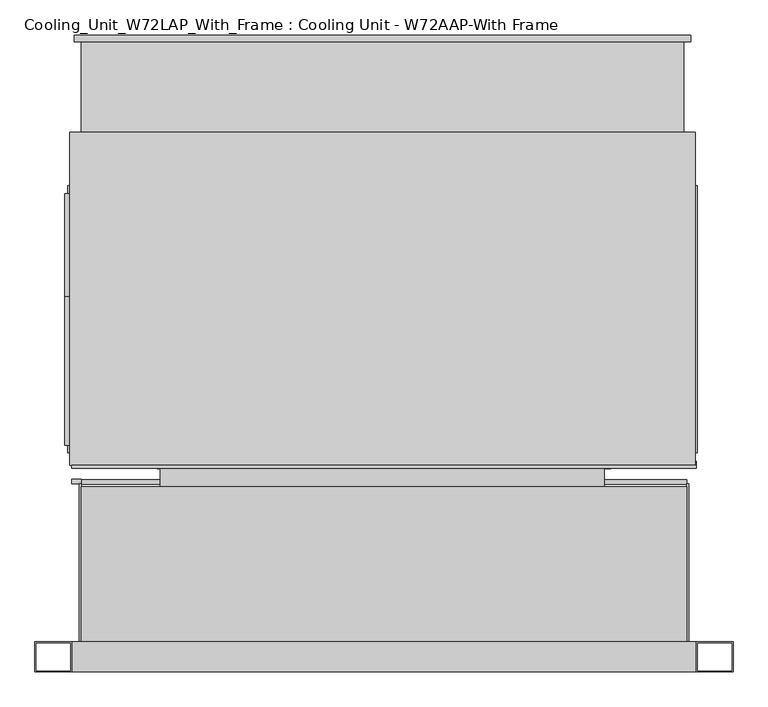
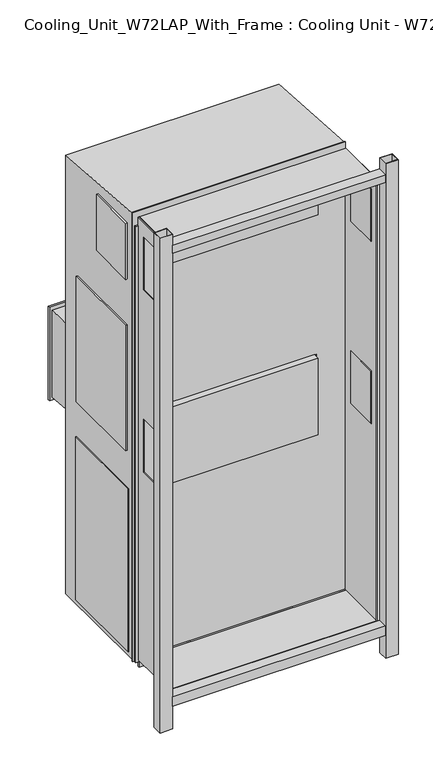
"""IFC4 building model written with IfcOpenShell, lengths in millimetres: proxy geometry, Cooling_Unit_W72LAP_With_Frame : Cooling Unit - W72AAP-With Frame."""

from ifc_helpers import new_model, si_unit, frame, origin, place, context, project, spatial, polyline, outline, extrude, faceted_brep, source, transform, mapped, element, save


def cooling_unit_w72lap_with_frame_cooling_unit_w72aap_with_416218e2(model_context):
    return source(origin(), model_context, "Body", "SolidModel", [
        extrude(outline(polyline([(-439.3229871, 963.8044365), (500.6040129, 963.8044365), (500.6040129, 960.6294365), (-439.3229871, 960.6294365), (-439.3229871, 963.8044365)])), frame((0.0, 0.0, 390.5703683), z_axis=(0.0, 0.0, 1.0), x_axis=(1.0, 0.0, 0.0)), (0.0, 0.0, 1.0), 889.0),
        faceted_brep([(-536.8589871, 963.8044365, 2693.6239728), (-536.8589871, 963.8044365, 371.2663683), (-536.8589871, 394.0316365, 371.2663683), (-536.8589871, 394.0316365, 2733.4663683), (531.8460129, 963.8044365, 2693.6239728), (531.8460129, 394.0316365, 2733.4663683), (531.8460129, 394.0316365, 371.2663683), (531.8460129, 963.8044365, 371.2663683), (500.6040129, 963.8044365, 1279.5703683), (-439.3229871, 963.8044365, 1279.5703683), (-439.3229871, 963.8044365, 390.5703683), (500.6040129, 963.8044365, 390.5703683), (-439.3229871, 960.6294365, 1279.5703683), (500.6040129, 960.6294365, 1279.5703683), (500.6040129, 960.6294365, 390.5703683), (-439.3229871, 960.6294365, 390.5703683)], [[[0, 1, 2, 3]], [[4, 5, 6, 7]], [[1, 0, 4, 7], [8, 9, 10, 11]], [[2, 1, 7, 6]], [[3, 2, 6, 5]], [[0, 3, 5, 4]], [[12, 13, 14, 15]], [[13, 12, 9, 8]], [[14, 13, 8, 11]], [[15, 14, 11, 10]], [[12, 15, 10, 9]]]),
        extrude(outline(polyline([(-540.1609871, 872.3136365), (-536.8589871, 872.3136365), (-536.8589871, 415.8756365), (-540.1609871, 415.8756365), (-540.1609871, 872.3136365)])), frame((0.0, 0.0, 395.3963683), z_axis=(0.0, 0.0, 1.0), x_axis=(1.0, 0.0, 0.0)), (0.0, 0.0, 1.0), 863.6),
        extrude(outline(polyline([(531.8460129, 872.3136365), (535.1480129, 872.3136365), (535.1480129, 415.8756365), (531.8460129, 415.8756365), (531.8460129, 872.3136365)])), frame((0.0, 0.0, 395.3963683), z_axis=(0.0, 0.0, 1.0), x_axis=(1.0, 0.0, 0.0)), (0.0, 0.0, 1.0), 863.6),
        extrude(outline(polyline([(-546.0029871, 428.3216365), (-546.0029871, 682.3216365), (-536.8589871, 682.3216365), (-536.8589871, 428.3216365), (-546.0029871, 428.3216365)])), frame((0.0, 0.0, 2362.1183683), z_axis=(0.0, 0.0, 1.0), x_axis=(1.0, 0.0, 0.0)), (0.0, 0.0, 1.0), 296.926),
        extrude(outline(polyline([(-546.0029871, 431.3696365), (-546.0029871, 858.3436365), (-536.8589871, 858.3436365), (-536.8589871, 431.3696365), (-546.0029871, 431.3696365)])), frame((0.0, 0.0, 1453.0523683), z_axis=(0.0, 0.0, 1.0), x_axis=(1.0, 0.0, 0.0)), (0.0, 0.0, 1.0), 665.226),
        extrude(outline(polyline([(-529.4294871, 1118.7444365), (-529.4294871, 1129.9204365), (524.4165129, 1129.9204365), (524.4165129, 1118.7444365), (-529.4294871, 1118.7444365)])), frame((0.0, 0.0, 1294.5563683), z_axis=(0.0, 0.0, 1.0), x_axis=(1.0, 0.0, 0.0)), (0.0, 0.0, 1.0), 495.3),
        extrude(outline(polyline([(1118.7444365, 1311.0663683), (963.8044365, 1324.6218618), (963.8044365, 1776.4709923), (1118.7444365, 1771.0603683), (1118.7444365, 1311.0663683)])), frame((-517.2374871, 0.0, 0.0), z_axis=(1.0, 0.0, 0.0), x_axis=(0.0, 1.0, 0.0)), (0.0, 0.0, 1.0), 1029.462),
        extrude(outline(polyline([(-381.9824871, 394.0316365), (376.9695129, 394.0316365), (376.9695129, 355.9316365), (-381.9824871, 355.9316365), (-381.9824871, 394.0316365)])), frame((0.0, 0.0, 2427.1423683), z_axis=(0.0, 0.0, 1.0), x_axis=(1.0, 0.0, 0.0)), (0.0, 0.0, 1.0), 250.952),
        extrude(outline(polyline([(-381.9824871, 394.0316365), (376.9695129, 394.0316365), (376.9695129, 355.9316365), (-381.9824871, 355.9316365), (-381.9824871, 394.0316365)])), frame((0.0, 0.0, 1261.7903683), z_axis=(0.0, 0.0, 1.0), x_axis=(1.0, 0.0, 0.0)), (0.0, 0.0, 1.0), 403.352),
        extrude(outline(polyline([(517.8204968, 357.412484), (517.8204968, 92.2999998), (-517.6294608, 92.2999998), (-517.6294608, 357.412484), (517.8204968, 357.412484)])), frame((0.0, 0.0, 383.5148535), z_axis=(0.0, 0.0, 1.0), x_axis=(1.0, 0.0, 0.0)), (0.0, 0.0, 1.0), 2.9767984),
        extrude(outline(polyline([(517.8204968, 357.412484), (517.8204968, 92.2999998), (-517.6294608, 92.2999998), (-517.6294608, 357.412484), (517.8204968, 357.412484)])), frame((0.0, 0.0, 2724.1136596), z_axis=(0.0, 0.0, 1.0), x_axis=(1.0, 0.0, 0.0)), (0.0, 0.0, 1.0), 3.019399),
        extrude(outline(polyline([(517.8204968, 370.1124587), (517.8204968, 362.5316365), (-517.6294608, 362.5316365), (-517.6294608, 370.1124587), (517.8204968, 370.1124587)])), frame((0.0, 0.0, 339.0538451), z_axis=(0.0, 0.0, 1.0), x_axis=(1.0, 0.0, 0.0)), (0.0, 0.0, 1.0), 44.449998),
        extrude(outline(polyline([(-533.9134227, 362.4924623), (-533.9134227, 370.1124587), (-517.6294608, 370.1124587), (-517.6294608, 362.4924623), (-533.9134227, 362.4924623)])), frame((0.0, 0.0, 367.7435917), z_axis=(0.0, 0.0, 1.0), x_axis=(1.0, 0.0, 0.0)), (0.0, 0.0, 1.0), 2309.6381202),
        extrude(outline(polyline([(362.5316365, 2724.1136596), (362.5316365, 380.3288503), (92.2999998, 380.3288503), (92.2999998, 2724.1136596), (362.5316365, 2724.1136596)]), holes=[polyline([(316.885252, 1680.8997953), (139.0852599, 1680.8997953), (139.0852599, 1401.4998324), (316.885252, 1401.4998324), (316.885252, 1680.8997953)]), polyline([(316.885252, 2646.0999494), (139.0852599, 2646.0999494), (139.0852599, 2366.6998135), (316.885252, 2366.6998135), (316.885252, 2646.0999494)])]), frame((-520.8044606, 0.0, 0.0), z_axis=(1.0, 0.0, 0.0), x_axis=(0.0, 1.0, 0.0)), (0.0, 0.0, 1.0), 3.1749998),
        extrude(outline(polyline([(596.7954946, 92.2999998), (596.7954946, 41.5), (534.1044587, 41.5), (534.1044587, 92.2999998), (596.7954946, 92.2999998)]), holes=[polyline([(536.2954946, 90.2999998), (536.2954946, 43.5), (594.7954946, 43.5), (594.7954946, 90.2999998), (536.2954946, 90.2999998)])]), frame((0.0, 0.0, 212.0538554), z_axis=(0.0, 0.0, 1.0), x_axis=(1.0, 0.0, 0.0)), (0.0, 0.0, 1.0), 2620.4655388),
        extrude(outline(polyline([(362.5316365, 2724.1136596), (362.5316365, 380.3288503), (92.2999998, 380.3288503), (92.2999998, 2724.1136596), (362.5316365, 2724.1136596)]), holes=[polyline([(316.885252, 1680.8997953), (139.0852599, 1680.8997953), (139.0852599, 1401.4998324), (316.885252, 1401.4998324), (316.885252, 1680.8997953)]), polyline([(316.885252, 2646.0999494), (139.0852599, 2646.0999494), (139.0852599, 2366.6998135), (316.885252, 2366.6998135), (316.885252, 2646.0999494)])]), frame((517.8204968, 0.0, 0.0), z_axis=(1.0, 0.0, 0.0), x_axis=(0.0, 1.0, 0.0)), (0.0, 0.0, 1.0), 3.1749998),
        extrude(outline(polyline([(517.8204968, 140.0852599), (517.8204968, 315.885252), (520.9954965, 315.885252), (520.9954965, 140.0852599), (517.8204968, 140.0852599)])), frame((0.0, 0.0, 2367.6998135), z_axis=(0.0, 0.0, 1.0), x_axis=(1.0, 0.0, 0.0)), (0.0, 0.0, 1.0), 277.400136),
        extrude(outline(polyline([(517.8204968, 140.0852599), (517.8204968, 315.885252), (520.9954965, 315.885252), (520.9954965, 140.0852599), (517.8204968, 140.0852599)])), frame((0.0, 0.0, 1402.4998324), z_axis=(0.0, 0.0, 1.0), x_axis=(1.0, 0.0, 0.0)), (0.0, 0.0, 1.0), 277.3999629),
        extrude(outline(polyline([(534.1044587, 401.6124587), (534.1044587, 393.9924623), (517.8204968, 393.9924623), (517.8204968, 401.6124587), (534.1044587, 401.6124587)])), frame((0.0, 0.0, 367.7435917), z_axis=(0.0, 0.0, 1.0), x_axis=(1.0, 0.0, 0.0)), (0.0, 0.0, 1.0), 2309.6381202),
        extrude(outline(polyline([(2736.5636991, -533.9134227), (358.1038505, -533.9134227), (358.1038505, 534.1044587), (2736.5636991, 534.1044587), (2736.5636991, -533.9134227)]), holes=[polyline([(2677.3817119, -387.404482), (2677.3817119, 387.595518), (2436.5897344, 387.595518), (2436.5897344, -387.404482), (2677.3817119, -387.404482)]), polyline([(1664.6613746, -387.404482), (1664.6613746, 387.595518), (1271.4693904, 387.595518), (1271.4693904, -387.404482), (1664.6613746, -387.404482)])]), frame((0.0, 388.912484, 0.0), z_axis=(0.0, 1.0, 0.0), x_axis=(0.0, 0.0, 1.0)), (0.0, 0.0, 1.0), 5.0799784),
        extrude(outline(polyline([(92.2999998, 2774.4485308), (92.2999998, 2732.8417103), (41.5, 2732.8417103), (41.5, 2774.4485308), (92.2999998, 2774.4485308)]), holes=[polyline([(43.5, 2772.4485308), (43.5, 2734.8417103), (90.2999998, 2734.8417103), (90.2999998, 2772.4485308), (43.5, 2772.4485308)])]), frame((-534.1044587, 0.0, 0.0), z_axis=(1.0, 0.0, 0.0), x_axis=(0.0, 1.0, 0.0)), (0.0, 0.0, 1.0), 1068.2089173),
        extrude(outline(polyline([(92.2999998, 383.5148535), (92.2999998, 333.5148535), (41.5, 333.5148535), (41.5, 383.5148535), (92.2999998, 383.5148535)]), holes=[polyline([(43.5, 381.5148535), (43.5, 335.5148535), (90.2999998, 335.5148535), (90.2999998, 381.5148535), (43.5, 381.5148535)])]), frame((-533.9134227, 0.0, 0.0), z_axis=(1.0, 0.0, 0.0), x_axis=(0.0, 1.0, 0.0)), (0.0, 0.0, 1.0), 1068.0178814),
        extrude(outline(polyline([(-596.6044587, 92.2999998), (-533.9134227, 92.2999998), (-533.9134227, 41.5), (-596.6044587, 41.5), (-596.6044587, 92.2999998)]), holes=[polyline([(-536.1044587, 90.2999998), (-594.6044587, 90.2999998), (-594.6044587, 43.5), (-536.1044587, 43.5), (-536.1044587, 90.2999998)])]), frame((0.0, 0.0, 212.0538554), z_axis=(0.0, 0.0, 1.0), x_axis=(1.0, 0.0, 0.0)), (0.0, 0.0, 1.0), 2620.4655388),
    ])


if __name__ == "__main__":
    model = new_model("IFC4")
    model_context = context("Model", 3, world=origin())
    ifc_project = project(units=[si_unit("LENGTHUNIT", "METRE", prefix="MILLI")], contexts=[model_context])
    site = spatial("IfcSite", under=ifc_project)
    building = spatial("IfcBuilding", under=site)
    placement = place(None, origin())
    cooling_unit_w72lap_with_frame_cooling_unit_w72aap_with_shape = cooling_unit_w72lap_with_frame_cooling_unit_w72aap_with_416218e2(model_context)
    element("IfcBuildingElementProxy", 1, Name="Cooling_Unit_W72LAP_With_Frame : Cooling Unit - W72AAP-With Frame", ObjectType="Cooling_Unit_W72LAP_With_Frame : Cooling Unit - W72AAP-With Frame", at=placement, inside=building, context=model_context, shape_type="MappedRepresentation", body=[
        mapped(cooling_unit_w72lap_with_frame_cooling_unit_w72aap_with_shape, transform((0.0, 0.0, 0.0), x_axis=(1.0, 0.0, 0.0), y_axis=(0.0, 1.0, 0.0), z_axis=(0.0, 0.0, 1.0))),
    ])
    save(model, "model.ifc")
